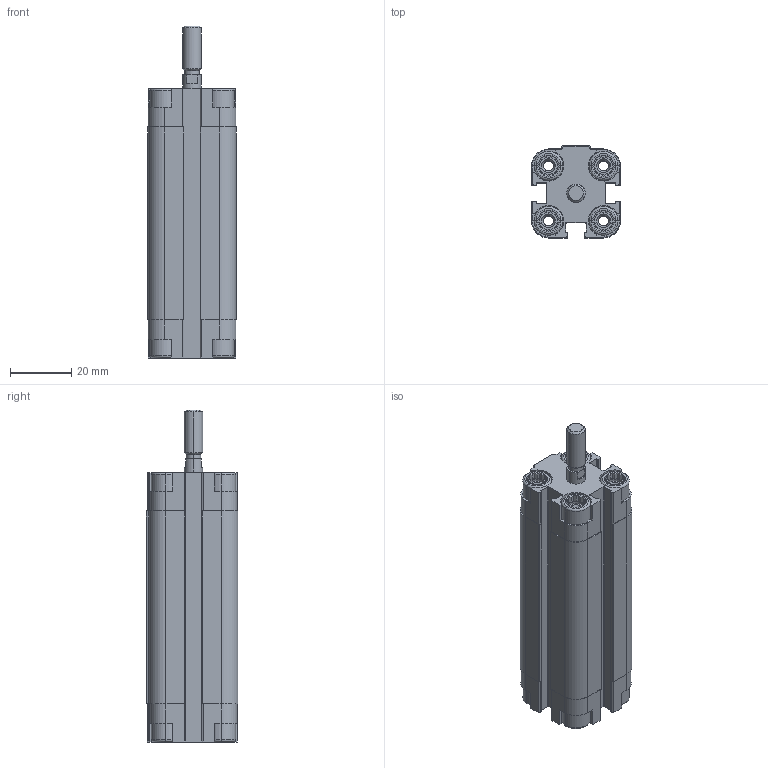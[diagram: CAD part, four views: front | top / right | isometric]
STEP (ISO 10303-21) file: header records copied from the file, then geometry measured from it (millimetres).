
FILE_DESCRIPTION (( 'STEP AP203' ), '1' );
FILE_NAME ('CDVU12-50.STEP', '2020-03-18T10:33:40', ( '' ), ( '' ), 'SwSTEP 2.0', 'SolidWorks 2019', '' );
FILE_SCHEMA (( 'CONFIG_CONTROL_DESIGN' ));
Length unit declared in the file: millimetre
Products named in the file (1): CDVU12-50
Bounding box: 29 x 30 x 108.5 mm (x, y, z)
Volume: 51304.7 mm3; surface area: 26364.5 mm2
Topology: 2 solids, 2 shells, 553 faces, 1472 edges, 958 vertices
Faces by surface type: plane 333, cylinder 158, cone 46, torus 16
Entity records: 17381 total; most frequent: CARTESIAN_POINT 3556, ORIENTED_EDGE 2936, DIRECTION 2776, EDGE_CURVE 1468, VERTEX_POINT 958, AXIS2_PLACEMENT_3D 946, LINE 884, VECTOR 884
